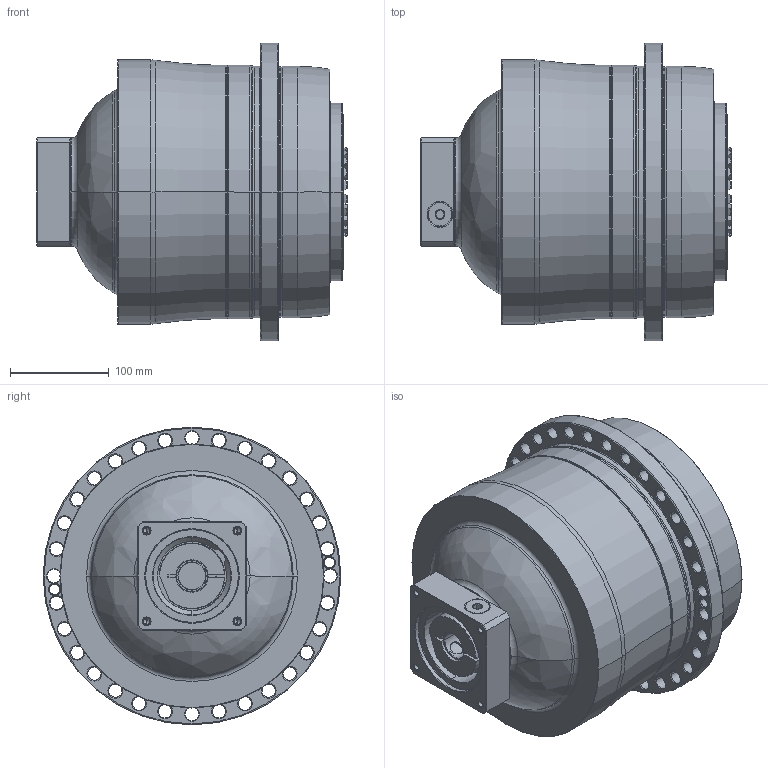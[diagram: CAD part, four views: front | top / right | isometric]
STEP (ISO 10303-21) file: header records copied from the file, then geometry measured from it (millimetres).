
FILE_DESCRIPTION((''),'2;1');
FILE_NAME('APC255_3ST_28-P0409610201_ASM','2018-07-05T',('d01226'),(''),'PRO/ENGINEER BY PARAMETRIC TECHNOLOGY CORPORATION, 2008410','PRO/ENGINEER BY PARAMETRIC TECHNOLOGY CORPORATION, 2008410','');
FILE_SCHEMA(('CONFIG_CONTROL_DESIGN'));
Length unit declared in the file: millimetre
Products named in the file (9): P0278701003; P0359770103; P1366700101; P0503600010; P0912501001; P1211700001; P0409610201; 21711418017; APC255_3ST_28-P0409610201_ASM
Assembly tree (8 placements, depth 2):
  APC255_3ST_28-P0409610201_ASM
    P0278701003
    P0359770103
    P1366700101
    P0503600010
    P0912501001
    P1211700001
    P0409610201
    21711418017
Bounding box: 315.1 x 302 x 302 mm (x, y, z)
Volume: 13062837.5 mm3; surface area: 714964.3 mm2
Topology: 9 solids, 21 shells, 759 faces, 1871 edges, 1141 vertices
Faces by surface type: cone 271, cylinder 229, plane 128, torus 115, bspline 16
Entity records: 28086 total; most frequent: CARTESIAN_POINT 9655, DIRECTION 4123, ORIENTED_EDGE 3656, EDGE_CURVE 1853, AXIS2_PLACEMENT_3D 1795, VERTEX_POINT 1141, CIRCLE 1023, EDGE_LOOP 870
